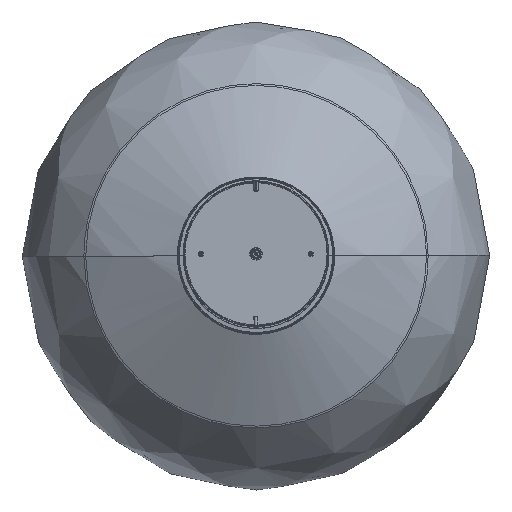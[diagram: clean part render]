
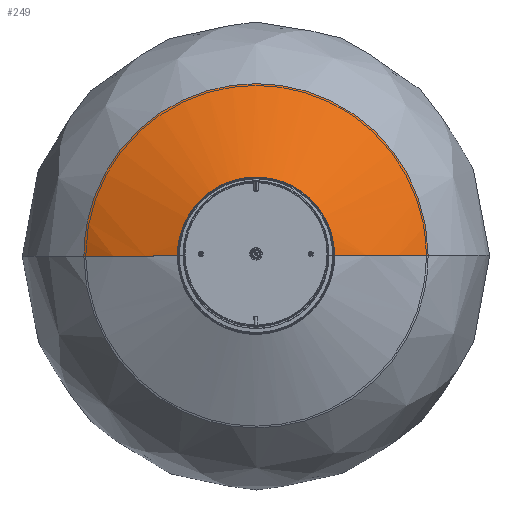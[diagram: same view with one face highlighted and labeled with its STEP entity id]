
A CAD part, top view. The second image highlights one B-rep face of the part: STEP entity #249.
In plain terms, the highlighted free-form (B-spline) face has degree [2, 2] with [9, 5] control points.
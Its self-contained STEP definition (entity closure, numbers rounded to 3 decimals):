
#249=ADVANCED_FACE('',(#719),#7443,.T.);
#719=FACE_OUTER_BOUND('',#1203,.T.);
#1203=EDGE_LOOP('',(#2162,#2163,#2164,#2165));
#2162=ORIENTED_EDGE('',*,*,#4314,.T.);
#2163=ORIENTED_EDGE('',*,*,#4308,.T.);
#2164=ORIENTED_EDGE('',*,*,#4316,.T.);
#2165=ORIENTED_EDGE('',*,*,#4309,.T.);
#4308=EDGE_CURVE('',#6637,#6638,#6039,.T.);
#4309=EDGE_CURVE('',#6639,#6636,#6040,.T.);
#4314=EDGE_CURVE('',#6636,#6637,#6045,.T.);
#4316=EDGE_CURVE('',#6638,#6639,#6047,.T.);
#6039=(
BOUNDED_CURVE()
B_SPLINE_CURVE(2,(#13453,#13454,#13455),.UNSPECIFIED.,.F.,.F.)
B_SPLINE_CURVE_WITH_KNOTS((3,3),(0.,100.695),.UNSPECIFIED.)
CURVE()
GEOMETRIC_REPRESENTATION_ITEM()
RATIONAL_B_SPLINE_CURVE((1.,0.984,1.))
REPRESENTATION_ITEM('')
);
#6040=(
BOUNDED_CURVE()
B_SPLINE_CURVE(2,(#13456,#13457,#13458),.UNSPECIFIED.,.F.,.F.)
B_SPLINE_CURVE_WITH_KNOTS((3,3),(0.,100.695),.UNSPECIFIED.)
CURVE()
GEOMETRIC_REPRESENTATION_ITEM()
RATIONAL_B_SPLINE_CURVE((1.,0.984,1.))
REPRESENTATION_ITEM('')
);
#6045=(
BOUNDED_CURVE()
B_SPLINE_CURVE(2,(#13479,#13480,#13481,#13482,#13483),.UNSPECIFIED.,.F.,
 .F.)
B_SPLINE_CURVE_WITH_KNOTS((3,2,3),(-235.619,-117.81,
0.),.UNSPECIFIED.)
CURVE()
GEOMETRIC_REPRESENTATION_ITEM()
RATIONAL_B_SPLINE_CURVE((1.,0.707,1.,0.707,1.))
REPRESENTATION_ITEM('')
);
#6047=(
BOUNDED_CURVE()
B_SPLINE_CURVE(2,(#13489,#13490,#13491,#13492,#13493),.UNSPECIFIED.,.F.,
 .F.)
B_SPLINE_CURVE_WITH_KNOTS((3,2,3),(-519.949,-259.974,
0.),.UNSPECIFIED.)
CURVE()
GEOMETRIC_REPRESENTATION_ITEM()
RATIONAL_B_SPLINE_CURVE((1.,0.707,1.,0.707,1.))
REPRESENTATION_ITEM('')
);
#6636=VERTEX_POINT('',#13396);
#6637=VERTEX_POINT('',#13397);
#6638=VERTEX_POINT('',#13398);
#6639=VERTEX_POINT('',#13399);
#7443=(
BOUNDED_SURFACE()
B_SPLINE_SURFACE(2,2,((#12895,#12896,#12897,#12898,#12899),(#12900,#12901,
#12902,#12903,#12904),(#12905,#12906,#12907,#12908,#12909),(#12910,#12911,
#12912,#12913,#12914),(#12915,#12916,#12917,#12918,#12919),(#12920,#12921,
#12922,#12923,#12924),(#12925,#12926,#12927,#12928,#12929),(#12930,#12931,
#12932,#12933,#12934),(#12935,#12936,#12937,#12938,#12939)),
 .UNSPECIFIED.,.T.,.F.,.F.)
B_SPLINE_SURFACE_WITH_KNOTS((3,2,2,2,3),(3,2,3),(0.,447.677,895.354,
1343.031,1790.708),(0.,447.677,895.354),
 .UNSPECIFIED.)
GEOMETRIC_REPRESENTATION_ITEM()
RATIONAL_B_SPLINE_SURFACE(((1.,0.707,1.,0.707,1.),
(0.707,0.5,0.707,0.5,0.707),(1.,0.707,
1.,0.707,1.),(0.707,0.5,0.707,0.5,0.707),
(1.,0.707,1.,0.707,1.),(0.707,0.5,0.707,
0.5,0.707),(1.,0.707,1.,0.707,1.),(0.707,
0.5,0.707,0.5,0.707),(1.,0.707,1.,0.707,
1.)))
REPRESENTATION_ITEM('')
SURFACE()
);
#12895=CARTESIAN_POINT('',(0.756,-981.834,-644.835));
#12896=CARTESIAN_POINT('',(-284.243,-982.589,-644.835));
#12897=CARTESIAN_POINT('',(-284.999,-697.59,-644.835));
#12898=CARTESIAN_POINT('',(-285.755,-412.591,-644.835));
#12899=CARTESIAN_POINT('',(-0.756,-411.836,-644.835));
#12900=CARTESIAN_POINT('',(0.756,-981.834,-644.835));
#12901=CARTESIAN_POINT('',(-284.243,-982.589,-359.835));
#12902=CARTESIAN_POINT('',(-284.999,-697.59,-359.835));
#12903=CARTESIAN_POINT('',(-285.755,-412.591,-359.835));
#12904=CARTESIAN_POINT('',(-0.756,-411.836,-644.835));
#12905=CARTESIAN_POINT('',(0.756,-981.834,-644.835));
#12906=CARTESIAN_POINT('',(0.756,-981.834,-359.835));
#12907=CARTESIAN_POINT('',(0.,-696.835,-359.835));
#12908=CARTESIAN_POINT('',(-0.756,-411.836,-359.835));
#12909=CARTESIAN_POINT('',(-0.756,-411.836,-644.835));
#12910=CARTESIAN_POINT('',(0.756,-981.834,-644.835));
#12911=CARTESIAN_POINT('',(285.755,-981.078,-359.835));
#12912=CARTESIAN_POINT('',(284.999,-696.079,-359.835));
#12913=CARTESIAN_POINT('',(284.243,-411.08,-359.835));
#12914=CARTESIAN_POINT('',(-0.756,-411.836,-644.835));
#12915=CARTESIAN_POINT('',(0.756,-981.834,-644.835));
#12916=CARTESIAN_POINT('',(285.755,-981.078,-644.835));
#12917=CARTESIAN_POINT('',(284.999,-696.079,-644.835));
#12918=CARTESIAN_POINT('',(284.243,-411.08,-644.835));
#12919=CARTESIAN_POINT('',(-0.756,-411.836,-644.835));
#12920=CARTESIAN_POINT('',(0.756,-981.834,-644.835));
#12921=CARTESIAN_POINT('',(285.755,-981.078,-929.835));
#12922=CARTESIAN_POINT('',(284.999,-696.079,-929.835));
#12923=CARTESIAN_POINT('',(284.243,-411.08,-929.835));
#12924=CARTESIAN_POINT('',(-0.756,-411.836,-644.835));
#12925=CARTESIAN_POINT('',(0.756,-981.834,-644.835));
#12926=CARTESIAN_POINT('',(0.756,-981.834,-929.835));
#12927=CARTESIAN_POINT('',(0.,-696.835,-929.835));
#12928=CARTESIAN_POINT('',(-0.756,-411.836,-929.835));
#12929=CARTESIAN_POINT('',(-0.756,-411.836,-644.835));
#12930=CARTESIAN_POINT('',(0.756,-981.834,-644.835));
#12931=CARTESIAN_POINT('',(-284.243,-982.589,-929.835));
#12932=CARTESIAN_POINT('',(-284.999,-697.59,-929.835));
#12933=CARTESIAN_POINT('',(-285.755,-412.591,-929.835));
#12934=CARTESIAN_POINT('',(-0.756,-411.836,-644.835));
#12935=CARTESIAN_POINT('',(0.756,-981.834,-644.835));
#12936=CARTESIAN_POINT('',(-284.243,-982.589,-644.835));
#12937=CARTESIAN_POINT('',(-284.999,-697.59,-644.835));
#12938=CARTESIAN_POINT('',(-285.755,-412.591,-644.835));
#12939=CARTESIAN_POINT('',(-0.756,-411.836,-644.835));
#13396=CARTESIAN_POINT('',(-75.,-697.033,-369.88));
#13397=CARTESIAN_POINT('',(75.,-696.636,-369.88));
#13398=CARTESIAN_POINT('',(165.504,-696.396,-412.815));
#13399=CARTESIAN_POINT('',(-165.504,-697.273,-412.815));
#13453=CARTESIAN_POINT('',(75.,-696.636,-369.88));
#13454=CARTESIAN_POINT('',(124.084,-696.506,-383.269));
#13455=CARTESIAN_POINT('',(165.504,-696.396,-412.815));
#13456=CARTESIAN_POINT('',(-165.504,-697.273,-412.815));
#13457=CARTESIAN_POINT('',(-124.084,-697.164,-383.269));
#13458=CARTESIAN_POINT('',(-75.,-697.033,-369.88));
#13479=CARTESIAN_POINT('',(-75.,-697.033,-369.88));
#13480=CARTESIAN_POINT('',(-75.199,-622.034,-369.88));
#13481=CARTESIAN_POINT('',(-0.199,-621.835,-369.88));
#13482=CARTESIAN_POINT('',(74.801,-621.636,-369.88));
#13483=CARTESIAN_POINT('',(75.,-696.636,-369.88));
#13489=CARTESIAN_POINT('',(165.504,-696.396,-412.815));
#13490=CARTESIAN_POINT('',(165.066,-530.892,-412.815));
#13491=CARTESIAN_POINT('',(-0.439,-531.33,-412.815));
#13492=CARTESIAN_POINT('',(-165.943,-531.769,-412.815));
#13493=CARTESIAN_POINT('',(-165.504,-697.273,-412.815));
